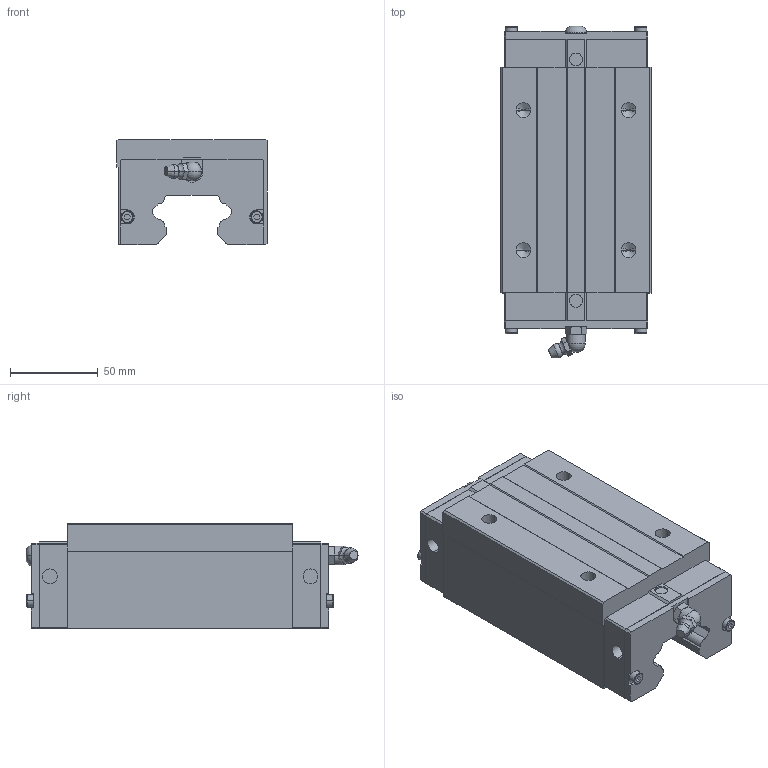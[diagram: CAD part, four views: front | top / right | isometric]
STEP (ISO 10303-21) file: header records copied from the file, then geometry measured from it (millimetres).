
FILE_DESCRIPTION(('no description'),'unknown implementation level');
FILE_NAME('HGH45HA_Z0_H_SS_11.stp',' ',('HIWIN GmbH'),('CADClick - KiM GmbH - www.kimweb.de'),'unknown preprocess','ACIS','unknown authorization');
FILE_SCHEMA(('automotive_design'));
Length unit declared in the file: millimetre
Products named in the file (1): HGH45HA Z0 H SS
Bounding box: 86 x 189.52 x 60.5 mm (x, y, z)
Volume: 647636.4 mm3; surface area: 72797.7 mm2
Topology: 1 solids, 6 shells, 295 faces, 753 edges, 475 vertices
Faces by surface type: plane 181, cylinder 60, torus 30, cone 22, sphere 2
Entity records: 17432 total; most frequent: CARTESIAN_POINT 1814, STYLED_ITEM 1514, PRESENTATION_STYLE_ASSIGNMENT 1514, COLOUR_RGB 1514, DIRECTION 1486, ORIENTED_EDGE 1486, EDGE_CURVE 743, CURVE_STYLE 743
